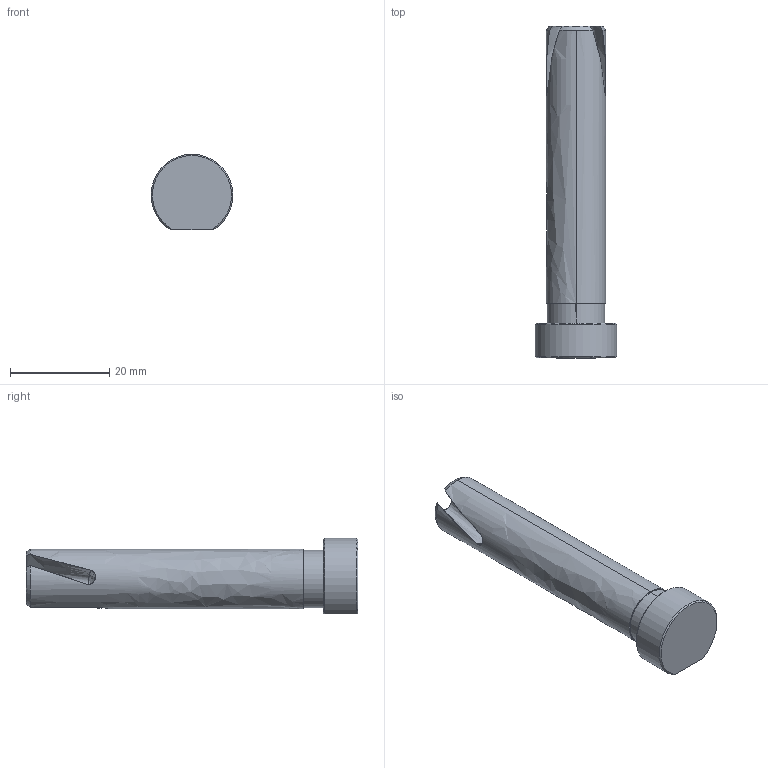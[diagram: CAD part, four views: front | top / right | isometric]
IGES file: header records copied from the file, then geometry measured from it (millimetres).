
Start section: SolidWorks IGES file using analytic representation for surfaces
Global section: file name: G:\Dropbox (Almo)\XPS 8700\Documents\Almo\SolidWorks Files\New Products (2018)\EGCP\Finished Parts\IGES\P12.60.2-90.IGS; native system: SolidWorks 2014; preprocessor: SolidWorks 2014; author: Victor; date: 180806.135958; units: millimetre
Bounding box: 16.5 x 67 x 15.25 mm (x, y, z)
Surface area: 3339.7 mm2 (no closed solid volume)
Topology: 0 solids, 0 shells, 32 faces, 639 edges, 637 vertices
Faces by surface type: bspline 17, revolution 15
